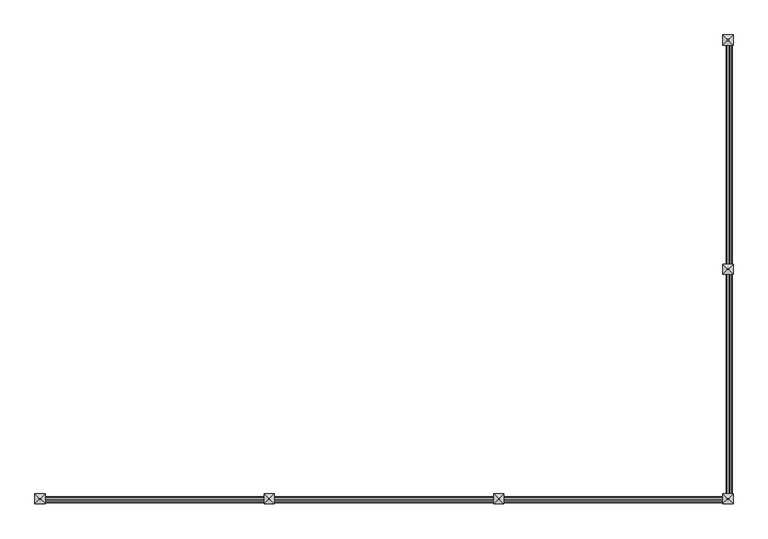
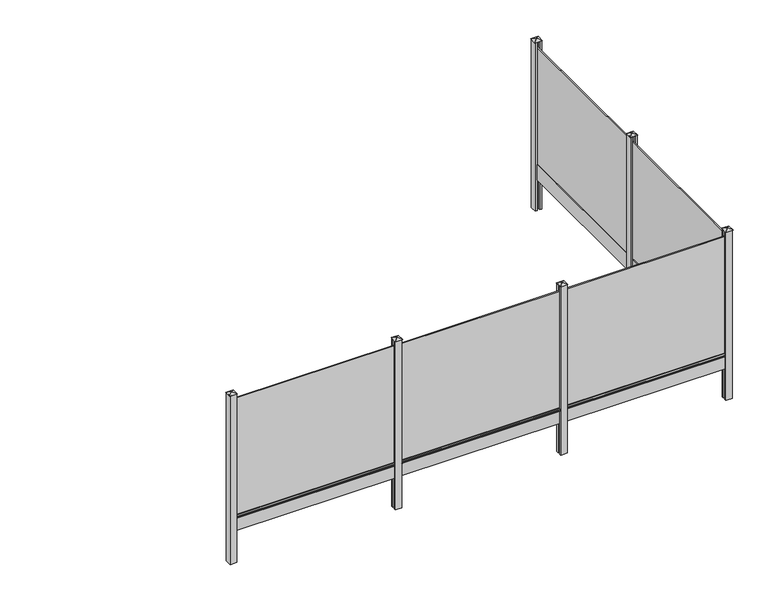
"""IFC4 building model written with IfcOpenShell, lengths in millimetres: railing geometry, Mehat - Railing - Plaque de Soubassement - Classique pour clôture rigide - 250x25x4 cm."""

from ifc_helpers import new_model, si_unit, point, frame, frame_2d, origin, origin_with_axes, place, context, project, spatial, polyline, circle_curve, trimmed, segment, composite_curve, outline, extrude, faceted_brep, source, transform, mapped, element, save


def railing_4c07a863(model_context):
    return source(origin(), model_context, "Body", "SolidModel", [
        extrude(outline(polyline([(76896.2516516, -10827.4943936), (76879.2516516, -10827.4943936), (76879.2516516, -8327.4943936), (76896.2516516, -8327.4943936), (76896.2516516, -10827.4943936)])), frame((0.0, 0.0, 250.0), z_axis=(0.0, 0.0, 1.0), x_axis=(1.0, 0.0, 0.0)), (0.0, 0.0, 1.0), 1900.0),
        extrude(outline(polyline([(76907.7516516, -10827.4943936), (76867.7516516, -10827.4943936), (76867.7516516, -8327.4943936), (76907.7516516, -8327.4943936), (76907.7516516, -10827.4943936)])), origin_with_axes(), (0.0, 0.0, 1.0), 250.0),
        extrude(outline(composite_curve([segment(polyline([(210.0, 76907.7516516), (217.1937129, 76929.3327905)]), True, "CONTINUOUS"), segment(trimmed(circle_curve(frame_2d((221.9371294, 76927.7516516)), 5.0), [point((217.1937129, 76929.3327905))], [point((221.9371294, 76932.7516516))], False, "CARTESIAN"), True, "CONTINUOUS"), segment(polyline([(221.9371294, 76932.7516516), (238.0628706, 76932.7516516)]), True, "CONTINUOUS"), segment(trimmed(circle_curve(frame_2d((238.0628706, 76927.7516516)), 5.0), [point((238.0628706, 76932.7516516))], [point((242.8062871, 76929.3327905))], False, "CARTESIAN"), True, "CONTINUOUS"), segment(polyline([(242.8062871, 76929.3327905), (250.0, 76907.7516516), (210.0, 76907.7516516)]), True, "CONTINUOUS")], self_intersect=False)), frame((0.0, -10802.4943936, 0.0), z_axis=(0.0, 1.0, 0.0), x_axis=(0.0, 0.0, 1.0)), (0.0, 0.0, 1.0), 2450.0),
        extrude(outline(polyline([(76937.7516516, -10902.4943936), (76907.7516516, -10902.4943936), (76907.7516516, -10877.4943936), (76867.7516516, -10877.4943936), (76867.7516516, -10902.4943936), (76837.7516516, -10902.4943936), (76837.7516516, -10802.4943936), (76867.7516516, -10802.4943936), (76867.7516516, -10827.4943936), (76907.7516516, -10827.4943936), (76907.7516516, -10802.4943936), (76937.7516516, -10802.4943936), (76937.7516516, -10902.4943936)])), frame((0.0, 0.0, -500.0), z_axis=(0.0, 0.0, 1.0), x_axis=(1.0, 0.0, 0.0)), (0.0, 0.0, 1.0), 2750.0),
        faceted_brep([(76881.3471055, -10846.1443936, 2275.4), (76881.3471055, -10858.8443936, 2275.4), (76894.0471055, -10858.8443936, 2275.4), (76894.0471055, -10846.1443936, 2275.4), (76831.4016516, -10796.1443936, 2250.0), (76944.1016516, -10796.1443936, 2250.0), (76944.1016516, -10908.8443936, 2250.0), (76831.4016516, -10908.8443936, 2250.0)], [[[0, 1, 2, 3]], [[4, 5, 6, 7]], [[4, 0, 3, 5]], [[5, 3, 2, 6]], [[6, 2, 1, 7]], [[7, 1, 0, 4]]]),
        extrude(outline(polyline([(76896.2516516, -13377.4943936), (76879.2516516, -13377.4943936), (76879.2516516, -10877.4943936), (76896.2516516, -10877.4943936), (76896.2516516, -13377.4943936)])), frame((0.0, 0.0, 250.0), z_axis=(0.0, 0.0, 1.0), x_axis=(1.0, 0.0, 0.0)), (0.0, 0.0, 1.0), 1900.0),
        extrude(outline(polyline([(76907.7516516, -13377.4943936), (76867.7516516, -13377.4943936), (76867.7516516, -10877.4943936), (76907.7516516, -10877.4943936), (76907.7516516, -13377.4943936)])), origin_with_axes(), (0.0, 0.0, 1.0), 250.0),
        extrude(outline(composite_curve([segment(polyline([(210.0, 76907.7516516), (217.1937129, 76929.3327905)]), True, "CONTINUOUS"), segment(trimmed(circle_curve(frame_2d((221.9371294, 76927.7516516)), 5.0), [point((217.1937129, 76929.3327905))], [point((221.9371294, 76932.7516516))], False, "CARTESIAN"), True, "CONTINUOUS"), segment(polyline([(221.9371294, 76932.7516516), (238.0628706, 76932.7516516)]), True, "CONTINUOUS"), segment(trimmed(circle_curve(frame_2d((238.0628706, 76927.7516516)), 5.0), [point((238.0628706, 76932.7516516))], [point((242.8062871, 76929.3327905))], False, "CARTESIAN"), True, "CONTINUOUS"), segment(polyline([(242.8062871, 76929.3327905), (250.0, 76907.7516516), (210.0, 76907.7516516)]), True, "CONTINUOUS")], self_intersect=False)), frame((0.0, -13352.4943936, 0.0), z_axis=(0.0, 1.0, 0.0), x_axis=(0.0, 0.0, 1.0)), (0.0, 0.0, 1.0), 2450.0),
        extrude(outline(polyline([(74362.7516516, -13410.9943936), (74362.7516516, -13393.9943936), (76862.7516516, -13393.9943936), (76862.7516516, -13410.9943936), (74362.7516516, -13410.9943936)])), frame((0.0, 0.0, 250.0), z_axis=(0.0, 0.0, 1.0), x_axis=(1.0, 0.0, 0.0)), (0.0, 0.0, 1.0), 1900.0),
        extrude(outline(polyline([(74362.7516516, -13422.4943936), (74362.7516516, -13382.4943936), (76862.7516516, -13382.4943936), (76862.7516516, -13422.4943936), (74362.7516516, -13422.4943936)])), origin_with_axes(), (0.0, 0.0, 1.0), 250.0),
        extrude(outline(composite_curve([segment(polyline([(-13422.4943936, 210.0), (-13444.0755325, 217.1937129)]), True, "CONTINUOUS"), segment(trimmed(circle_curve(frame_2d((-13442.4943936, 221.9371294)), 5.0), [point((-13444.0755325, 217.1937129))], [point((-13447.4943936, 221.9371294))], False, "CARTESIAN"), True, "CONTINUOUS"), segment(polyline([(-13447.4943936, 221.9371294), (-13447.4943936, 238.0628706)]), True, "CONTINUOUS"), segment(trimmed(circle_curve(frame_2d((-13442.4943936, 238.0628706)), 5.0), [point((-13447.4943936, 238.0628706))], [point((-13444.0755325, 242.8062871))], False, "CARTESIAN"), True, "CONTINUOUS"), segment(polyline([(-13444.0755325, 242.8062871), (-13422.4943936, 250.0), (-13422.4943936, 210.0)]), True, "CONTINUOUS")], self_intersect=False)), frame((74387.7516516, 0.0, 0.0), z_axis=(1.0, 0.0, 0.0), x_axis=(0.0, 1.0, 0.0)), (0.0, 0.0, 1.0), 2450.0),
        extrude(outline(polyline([(74287.7516516, -13452.4943936), (74287.7516516, -13422.4943936), (74312.7516516, -13422.4943936), (74312.7516516, -13382.4943936), (74287.7516516, -13382.4943936), (74287.7516516, -13352.4943936), (74387.7516516, -13352.4943936), (74387.7516516, -13382.4943936), (74362.7516516, -13382.4943936), (74362.7516516, -13422.4943936), (74387.7516516, -13422.4943936), (74387.7516516, -13452.4943936), (74287.7516516, -13452.4943936)])), frame((0.0, 0.0, -500.0), z_axis=(0.0, 0.0, 1.0), x_axis=(1.0, 0.0, 0.0)), (0.0, 0.0, 1.0), 2750.0),
        faceted_brep([(74344.1016516, -13396.0898475, 2275.4), (74331.4016516, -13396.0898475, 2275.4), (74331.4016516, -13408.7898475, 2275.4), (74344.1016516, -13408.7898475, 2275.4), (74394.1016516, -13346.1443936, 2250.0), (74394.1016516, -13458.8443936, 2250.0), (74281.4016516, -13458.8443936, 2250.0), (74281.4016516, -13346.1443936, 2250.0)], [[[0, 1, 2, 3]], [[4, 5, 6, 7]], [[4, 0, 3, 5]], [[5, 3, 2, 6]], [[6, 2, 1, 7]], [[7, 1, 0, 4]]]),
        extrude(outline(polyline([(71812.7516516, -13410.9943936), (71812.7516516, -13393.9943936), (74312.7516516, -13393.9943936), (74312.7516516, -13410.9943936), (71812.7516516, -13410.9943936)])), frame((0.0, 0.0, 250.0), z_axis=(0.0, 0.0, 1.0), x_axis=(1.0, 0.0, 0.0)), (0.0, 0.0, 1.0), 1900.0),
        extrude(outline(polyline([(71812.7516516, -13422.4943936), (71812.7516516, -13382.4943936), (74312.7516516, -13382.4943936), (74312.7516516, -13422.4943936), (71812.7516516, -13422.4943936)])), origin_with_axes(), (0.0, 0.0, 1.0), 250.0),
        extrude(outline(composite_curve([segment(polyline([(-13422.4943936, 210.0), (-13444.0755325, 217.1937129)]), True, "CONTINUOUS"), segment(trimmed(circle_curve(frame_2d((-13442.4943936, 221.9371294)), 5.0), [point((-13444.0755325, 217.1937129))], [point((-13447.4943936, 221.9371294))], False, "CARTESIAN"), True, "CONTINUOUS"), segment(polyline([(-13447.4943936, 221.9371294), (-13447.4943936, 238.0628706)]), True, "CONTINUOUS"), segment(trimmed(circle_curve(frame_2d((-13442.4943936, 238.0628706)), 5.0), [point((-13447.4943936, 238.0628706))], [point((-13444.0755325, 242.8062871))], False, "CARTESIAN"), True, "CONTINUOUS"), segment(polyline([(-13444.0755325, 242.8062871), (-13422.4943936, 250.0), (-13422.4943936, 210.0)]), True, "CONTINUOUS")], self_intersect=False)), frame((71837.7516516, 0.0, 0.0), z_axis=(1.0, 0.0, 0.0), x_axis=(0.0, 1.0, 0.0)), (0.0, 0.0, 1.0), 2450.0),
        extrude(outline(polyline([(71737.7516516, -13452.4943936), (71737.7516516, -13422.4943936), (71762.7516516, -13422.4943936), (71762.7516516, -13382.4943936), (71737.7516516, -13382.4943936), (71737.7516516, -13352.4943936), (71837.7516516, -13352.4943936), (71837.7516516, -13382.4943936), (71812.7516516, -13382.4943936), (71812.7516516, -13422.4943936), (71837.7516516, -13422.4943936), (71837.7516516, -13452.4943936), (71737.7516516, -13452.4943936)])), frame((0.0, 0.0, -500.0), z_axis=(0.0, 0.0, 1.0), x_axis=(1.0, 0.0, 0.0)), (0.0, 0.0, 1.0), 2750.0),
        faceted_brep([(71794.1016516, -13396.0898475, 2275.4), (71781.4016516, -13396.0898475, 2275.4), (71781.4016516, -13408.7898475, 2275.4), (71794.1016516, -13408.7898475, 2275.4), (71844.1016516, -13346.1443936, 2250.0), (71844.1016516, -13458.8443936, 2250.0), (71731.4016516, -13458.8443936, 2250.0), (71731.4016516, -13346.1443936, 2250.0)], [[[0, 1, 2, 3]], [[4, 5, 6, 7]], [[4, 0, 3, 5]], [[5, 3, 2, 6]], [[6, 2, 1, 7]], [[7, 1, 0, 4]]]),
        extrude(outline(polyline([(69262.7516516, -13410.9943936), (69262.7516516, -13393.9943936), (71762.7516516, -13393.9943936), (71762.7516516, -13410.9943936), (69262.7516516, -13410.9943936)])), frame((0.0, 0.0, 250.0), z_axis=(0.0, 0.0, 1.0), x_axis=(1.0, 0.0, 0.0)), (0.0, 0.0, 1.0), 1900.0),
        extrude(outline(polyline([(69262.7516516, -13422.4943936), (69262.7516516, -13382.4943936), (71762.7516516, -13382.4943936), (71762.7516516, -13422.4943936), (69262.7516516, -13422.4943936)])), origin_with_axes(), (0.0, 0.0, 1.0), 250.0),
        extrude(outline(composite_curve([segment(polyline([(-13422.4943936, 210.0), (-13444.0755325, 217.1937129)]), True, "CONTINUOUS"), segment(trimmed(circle_curve(frame_2d((-13442.4943936, 221.9371294)), 5.0), [point((-13444.0755325, 217.1937129))], [point((-13447.4943936, 221.9371294))], False, "CARTESIAN"), True, "CONTINUOUS"), segment(polyline([(-13447.4943936, 221.9371294), (-13447.4943936, 238.0628706)]), True, "CONTINUOUS"), segment(trimmed(circle_curve(frame_2d((-13442.4943936, 238.0628706)), 5.0), [point((-13447.4943936, 238.0628706))], [point((-13444.0755325, 242.8062871))], False, "CARTESIAN"), True, "CONTINUOUS"), segment(polyline([(-13444.0755325, 242.8062871), (-13422.4943936, 250.0), (-13422.4943936, 210.0)]), True, "CONTINUOUS")], self_intersect=False)), frame((69287.7516516, 0.0, 0.0), z_axis=(1.0, 0.0, 0.0), x_axis=(0.0, 1.0, 0.0)), (0.0, 0.0, 1.0), 2450.0),
        extrude(outline(polyline([(76837.7516516, -13452.4943936), (76837.7516516, -13422.4943936), (76862.7516516, -13422.4943936), (76862.7516516, -13382.4943936), (76837.7516516, -13382.4943936), (76837.7516516, -13352.4943936), (76867.7516516, -13352.4943936), (76867.7516516, -13377.4943936), (76907.7516516, -13377.4943936), (76907.7516516, -13352.4943936), (76937.7516516, -13352.4943936), (76937.7516516, -13452.4943936), (76837.7516516, -13452.4943936)])), frame((0.0, 0.0, -500.0), z_axis=(0.0, 0.0, 1.0), x_axis=(1.0, 0.0, 0.0)), (0.0, 0.0, 1.0), 2750.0),
        faceted_brep([(76894.1016516, -13396.0898475, 2275.4), (76881.4016516, -13396.0898475, 2275.4), (76881.4016516, -13408.7898475, 2275.4), (76894.1016516, -13408.7898475, 2275.4), (76944.1016516, -13346.1443936, 2250.0), (76944.1016516, -13458.8443936, 2250.0), (76831.4016516, -13458.8443936, 2250.0), (76831.4016516, -13346.1443936, 2250.0)], [[[0, 1, 2, 3]], [[4, 5, 6, 7]], [[4, 0, 3, 5]], [[5, 3, 2, 6]], [[6, 2, 1, 7]], [[7, 1, 0, 4]]]),
        extrude(outline(polyline([(76937.7516516, -8352.4943936), (76907.7516516, -8352.4943936), (76907.7516516, -8327.4943936), (76867.7516516, -8327.4943936), (76867.7516516, -8352.4943936), (76837.7516516, -8352.4943936), (76837.7516516, -8252.4943936), (76937.7516516, -8252.4943936), (76937.7516516, -8352.4943936)])), frame((0.0, 0.0, -500.0), z_axis=(0.0, 0.0, 1.0), x_axis=(1.0, 0.0, 0.0)), (0.0, 0.0, 1.0), 2750.0),
        faceted_brep([(76881.3471055, -8296.1443936, 2275.4), (76881.3471055, -8308.8443936, 2275.4), (76894.0471055, -8308.8443936, 2275.4), (76894.0471055, -8296.1443936, 2275.4), (76831.4016516, -8246.1443936, 2250.0), (76944.1016516, -8246.1443936, 2250.0), (76944.1016516, -8358.8443936, 2250.0), (76831.4016516, -8358.8443936, 2250.0)], [[[0, 1, 2, 3]], [[4, 5, 6, 7]], [[4, 0, 3, 5]], [[5, 3, 2, 6]], [[6, 2, 1, 7]], [[7, 1, 0, 4]]]),
        extrude(outline(polyline([(69187.7516516, -13452.4943936), (69187.7516516, -13352.4943936), (69287.7516516, -13352.4943936), (69287.7516516, -13382.4943936), (69262.7516516, -13382.4943936), (69262.7516516, -13422.4943936), (69287.7516516, -13422.4943936), (69287.7516516, -13452.4943936), (69187.7516516, -13452.4943936)])), frame((0.0, 0.0, -500.0), z_axis=(0.0, 0.0, 1.0), x_axis=(1.0, 0.0, 0.0)), (0.0, 0.0, 1.0), 2750.0),
        faceted_brep([(69244.1016516, -13396.0898475, 2275.4), (69231.4016516, -13396.0898475, 2275.4), (69231.4016516, -13408.7898475, 2275.4), (69244.1016516, -13408.7898475, 2275.4), (69294.1016516, -13346.1443936, 2250.0), (69294.1016516, -13458.8443936, 2250.0), (69181.4016516, -13458.8443936, 2250.0), (69181.4016516, -13346.1443936, 2250.0)], [[[0, 1, 2, 3]], [[4, 5, 6, 7]], [[4, 0, 3, 5]], [[5, 3, 2, 6]], [[6, 2, 1, 7]], [[7, 1, 0, 4]]]),
    ])


if __name__ == "__main__":
    model = new_model("IFC4")
    model_context = context("Model", 3, world=origin())
    ifc_project = project(units=[si_unit("LENGTHUNIT", "METRE", prefix="MILLI")], contexts=[model_context])
    site = spatial("IfcSite", under=ifc_project)
    building = spatial("IfcBuilding", under=site)
    placement = place(None, origin())
    railing_shape = railing_4c07a863(model_context)
    element("IfcRailing", 1, ObjectType="Mehat - Railing - Plaque de Soubassement - Classique pour clôture rigide - 250x25x4 cm", at=placement, inside=building, context=model_context, shape_type="MappedRepresentation", body=[
        mapped(railing_shape, transform((0.0, 0.0, 0.0), x_axis=(1.0, 0.0, 0.0), y_axis=(0.0, 1.0, 0.0), z_axis=(0.0, 0.0, 1.0))),
    ])
    save(model, "model.ifc")
